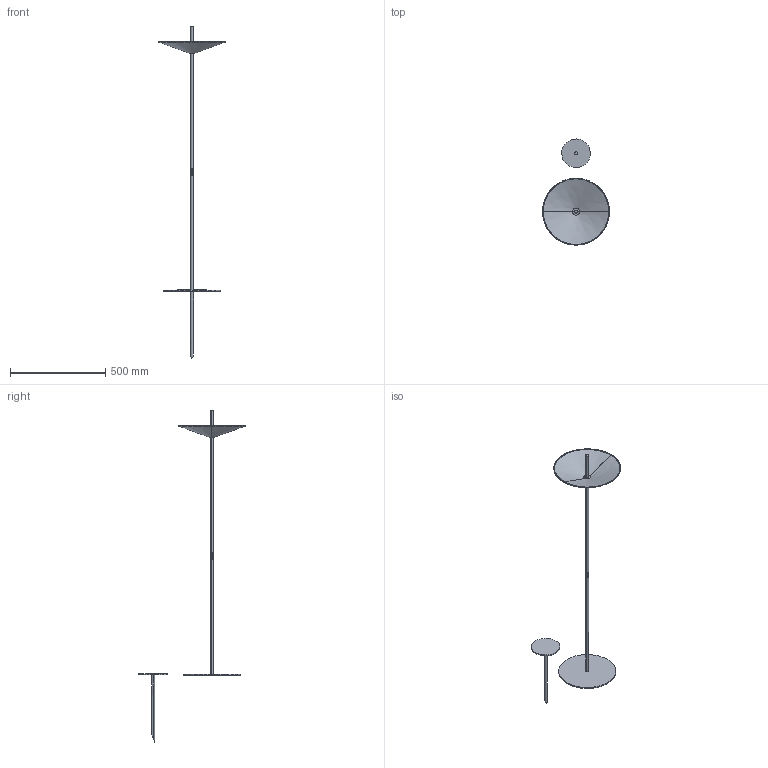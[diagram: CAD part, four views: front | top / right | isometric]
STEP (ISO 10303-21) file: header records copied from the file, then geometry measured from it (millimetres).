
FILE_DESCRIPTION(/* description */ (''),/* implementation_level */ '2;1');
FILE_NAME(/* name */ 'Ori_Floor standing_Water bath',/* time_stamp */ '2026-10-06T10:07:00+02:00',/* author */ (''),/* organization */ (''),/* preprocessor_version */ 'ST-DEVELOPER v16.5',/* originating_system */ 'Rhino 7.38',/* authorisation */ '');
FILE_SCHEMA (('CONFIG_CONTROL_DESIGN'));
Length unit declared in the file: millimetre
Products named in the file (2): Document; Y104006031_--ORI - GIUNTO STELO
Assembly tree (1 placements, depth 2):
  Document
    Y104006031_--ORI - GIUNTO STELO
Bounding box: 350 x 558.6 x 1741.74 mm (x, y, z)
Volume: 1032817.8 mm3; surface area: 486989.9 mm2
Topology: 7 solids, 8 shells, 107 faces, 267 edges, 177 vertices
Faces by surface type: cylinder 78, plane 17, bspline 12
Entity records: 5723 total; most frequent: CARTESIAN_POINT 3718, ORIENTED_EDGE 530, EDGE_CURVE 266, B_SPLINE_CURVE_WITH_KNOTS 193, VERTEX_POINT 176, EDGE_LOOP 115, DIRECTION 109, ADVANCED_FACE 107
